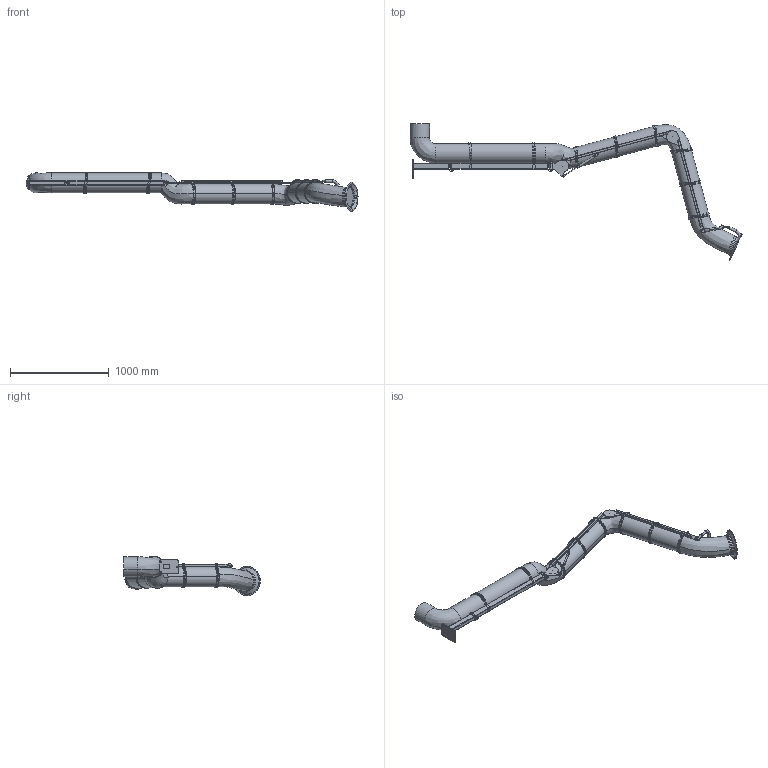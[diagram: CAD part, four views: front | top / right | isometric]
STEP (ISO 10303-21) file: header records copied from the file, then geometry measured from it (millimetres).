
FILE_DESCRIPTION((''),'2;1');
FILE_NAME('PSR_4000-200_EXD','2022-10-04T13:24:44',('Tomas Bellgran'),(''),'CREO PARAMETRIC BY PTC INC, 2018260','CREO PARAMETRIC BY PTC INC, 2018260','');
FILE_SCHEMA(('AUTOMOTIVE_DESIGN { 1 0 10303 214 1 1 1 1 }'));
Products named in the file (35): 141558; 141580; 141581; 122701; 141514; 141560; 141582; 141587; 141524; 121391; 131150_LIGHT; 139383_LIGHT; 131151_LIGHT; 131173_LIGHT; 144356; 141589; 134343_AF0; G_P136_WELD-REF; 141590; 120626; 122750_LIGHT; 122717_LIGHT; 120127_COMPL_LIGHT; 130317; ROD_STAB_8-160-REF; 131095; 130322_AF25; 131145; 147067_EXD; 124460; 107526-11; 117586; 131138; 107526-10; PSR_4000-200_EXD
Assembly tree (53 placements, depth 3):
  PSR_4000-200_EXD
    141514
      141558
      141580
      141581
      122701
    141524
      141560
      141582
      141587
    121391  x4
    131150_LIGHT
    131173_LIGHT
      139383_LIGHT
      131151_LIGHT
    144356  x2
    141590
      141589
      134343_AF0
      G_P136_WELD-REF
    120626
    122750_LIGHT
    122717_LIGHT
    120127_COMPL_LIGHT  x2
    130322_AF25
      130317
      ROD_STAB_8-160-REF
      131095  x2
    131145  x2
    147067_EXD
    124460  x6
    107526-11  x6
    131138  x2
      117586
    107526-10  x2
Bounding box: 3356.94 x 1379.34 x 399.78 mm (x, y, z)
Volume: 138202878 mm3; surface area: 3929969.9 mm2
Topology: 47 solids, 47 shells, 1336 faces, 3186 edges, 1947 vertices
Faces by surface type: plane 547, cylinder 389, bspline 326, cone 34, extrusion 20, torus 16, sphere 4
Entity records: 48116 total; most frequent: CARTESIAN_POINT 20101, DIRECTION 3560, ORIENTED_EDGE 3510, PRESENTATION_STYLE_ASSIGNMENT 2302, STYLED_ITEM 2279, CURVE_STYLE 1765, EDGE_CURVE 1755, AXIS2_PLACEMENT_3D 1337
